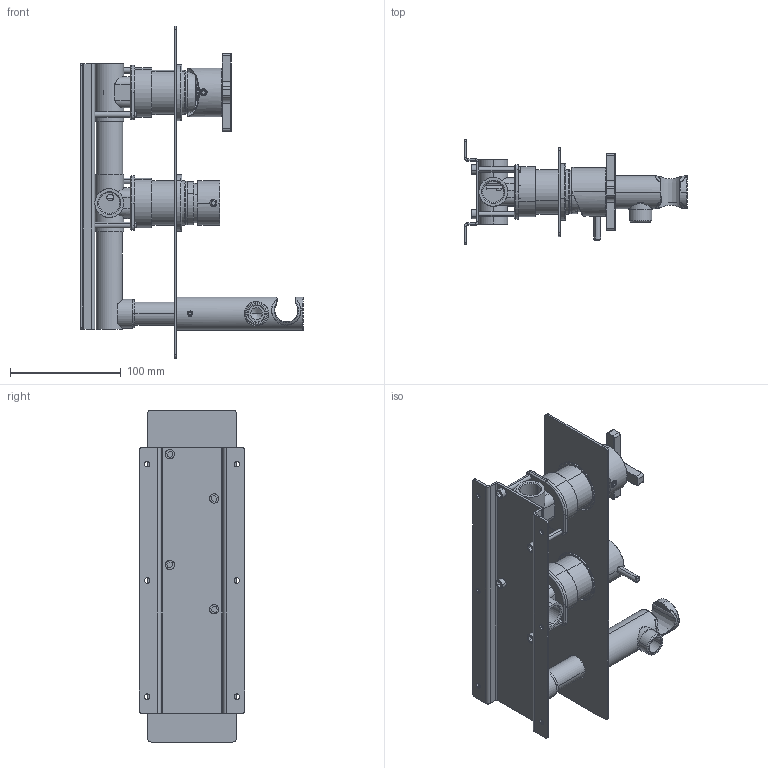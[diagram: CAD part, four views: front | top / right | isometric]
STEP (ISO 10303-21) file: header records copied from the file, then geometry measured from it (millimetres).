
FILE_DESCRIPTION (( 'STEP AP203' ), '1' );
FILE_NAME ('HUG80N.STEP', '2024-01-24T07:29:52', ( '' ), ( '' ), 'SwSTEP 2.0', 'SolidWorks 2023', '' );
FILE_SCHEMA (( 'CONFIG_CONTROL_DESIGN' ));
Length unit declared in the file: millimetre
Products named in the file (41): C47.00.0023.01; C12.00.0011; 1174; ADATTATORE MEZZO; C11.14.0007; C24.1966.00.0; C11.14.0008; 1174G; AS855_00; C11.10.0059; C25.1964.00.0; C24.2035.00.0; C25.1995.00.0; CAPP_0; TUBO DI GIUNZIONE VASCA E DOCCIA; 405-40CPA GEDA; AS814_00; C24.2086.00.0; C12.00.0008; 1000; EROGATORE VASCA E DOCCIA; C12.00.0017; HUG80N; C47.00.0015; IST80; AS757_00; C25.0791.00.1; C12.00.0035; C25.1173.00.0; VITETC5x40; C47.00.0121.0; C11.15.0006; C25.2662.00; C24.1992.00.0; C23.1878.01; C11.14.0009; C24.2050.00.1; C10.00.0015; C24.1965.00.0; C24.1993.00.0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
Assembly tree (49 placements, depth 4):
  HUG80N
    IST80
      405-40CPA GEDA
        1174G
        EROGATORE VASCA E DOCCIA
        TUBO DI GIUNZIONE VASCA E DOCCIA
        1174
        ADATTATORE MEZZO
      C24.1966.00.0
      C25.1964.00.0
      C24.1965.00.0  x2
      C12.00.0008
      C12.00.0017  x2
      1000  x2
      C47.00.0015  x2
      C10.00.0015
      C10.00.0011
      VITETC5x40  x4
      C24.1993.00.0
      CAPP_0
    AS757_00
      C24.1992.00.0
      C25.1173.00.0
      C23.1878.01
      C11.14.0009
      C11.14.0007
      C47.00.0023.01
    C25.2662.00
    C12.00.0035  x2
    C25.1995.00.0  x2
    AS814_00
      C24.2035.00.0
      C24.2050.00.1
      C11.15.0006
      C11.10.0059
    AS855_00
      C24.2086.00.0
      C47.00.0121.0
      C25.0791.00.1
      C12.00.0011
      C11.14.0008
Bounding box: 201.5 x 95 x 300 mm (x, y, z)
Volume: 452647.7 mm3; surface area: 292220.9 mm2
Topology: 45 solids, 45 shells, 1636 faces, 3818 edges, 2373 vertices
Faces by surface type: cylinder 634, plane 625, cone 219, torus 148, bspline 10
Entity records: 45528 total; most frequent: CARTESIAN_POINT 9961, DIRECTION 6997, ORIENTED_EDGE 6082, EDGE_CURVE 3041, AXIS2_PLACEMENT_3D 2793, VERTEX_POINT 1893, EDGE_LOOP 1518, CIRCLE 1429
